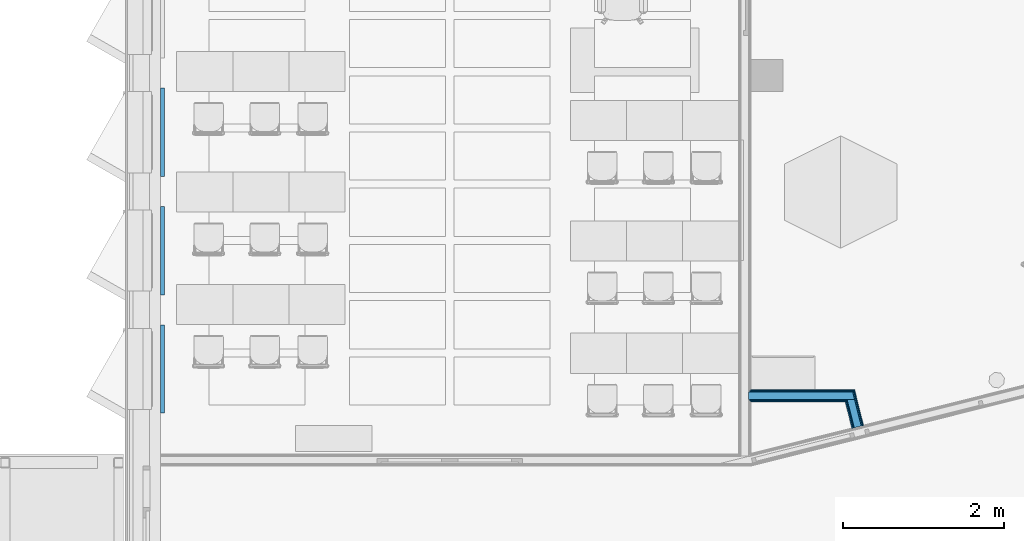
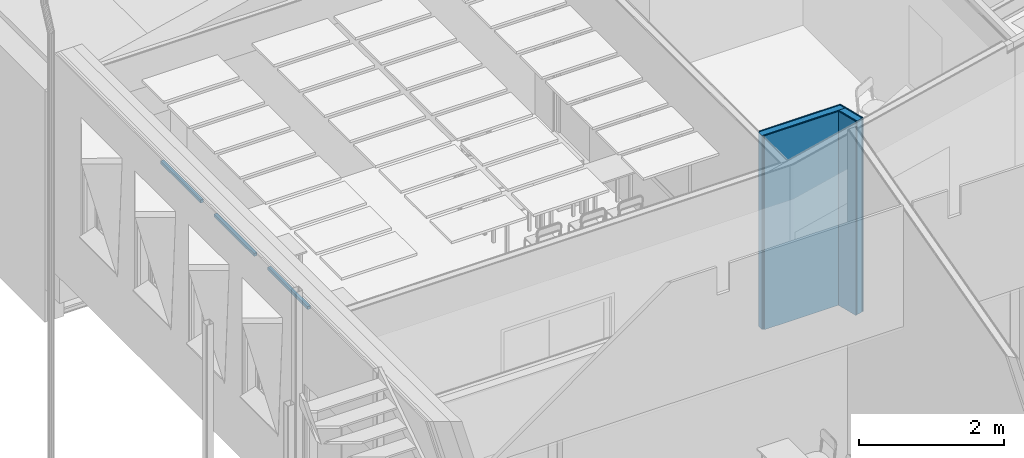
# One storey, part 52 of 153: 10 building element parts, 3 discrete accessories, 2 elements without a shape of their own.
"""IFC2X3 building model written with IfcOpenShell, lengths in millimetres."""

from ifc_helpers import new_model, entity, si_unit, converted_unit, derived_unit, money_unit, direction, frame, origin_with_axes, place, context, subcontext, project, spatial, faceted_brep, material, type_object, element, aggregate, save


model = new_model("IFC2X3")

# Units and contexts
model_context = context("Model", 3, precision=0.01, world=origin_with_axes(), true_north=direction((0.0, 1.0)))
body_context = subcontext(model_context, "Body", "Model", "MODEL_VIEW")
ifc_project = project(units=[si_unit("LENGTHUNIT", "METRE", prefix="MILLI"), si_unit("AREAUNIT", "SQUARE_METRE"), si_unit("VOLUMEUNIT", "CUBIC_METRE"), converted_unit("PLANEANGLEUNIT", "DEGREE", entity("IfcPlaneAngleMeasure", 0.0174532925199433), si_unit("PLANEANGLEUNIT", "RADIAN"), dimensions=[0, 0, 0, 0, 0, 0, 0]), money_unit("EUR"), converted_unit("TIMEUNIT", "Year", entity("IfcTimeMeasure", 31557600.0), si_unit("TIMEUNIT", "SECOND"), dimensions=[0, 0, 1, 0, 0, 0, 0]), si_unit("MASSUNIT", "GRAM", prefix="KILO"), si_unit("THERMODYNAMICTEMPERATUREUNIT", "DEGREE_CELSIUS"), si_unit("LUMINOUSINTENSITYUNIT", "LUMEN"), si_unit("ENERGYUNIT", "JOULE", prefix="MEGA"), derived_unit("THERMALCONDUCTANCEUNIT", [(si_unit("POWERUNIT", "WATT"), 1), (si_unit("LENGTHUNIT", "METRE"), -1), (si_unit("THERMODYNAMICTEMPERATUREUNIT", "KELVIN"), -1)]), derived_unit("SPECIFICHEATCAPACITYUNIT", [(si_unit("ENERGYUNIT", "JOULE"), 1), (si_unit("MASSUNIT", "GRAM", prefix="KILO"), -1), (si_unit("THERMODYNAMICTEMPERATUREUNIT", "KELVIN"), -1)]), derived_unit("MASSDENSITYUNIT", [(si_unit("MASSUNIT", "GRAM", prefix="KILO"), 1), (si_unit("VOLUMEUNIT", "CUBIC_METRE"), -1)])], contexts=[model_context])

# Site, building, storey
site_placement = place(None, frame((0.0, 0.0, 8650.0), z_axis=(0.0, 0.0, 1.0), x_axis=(1.0, 0.0, 0.0)))
site = spatial("IfcSite", under=ifc_project, at=site_placement, Name="43301:001:0844", CompositionType="ELEMENT")
building_placement = place(site_placement, origin_with_axes())
building = spatial("IfcBuilding", under=site, at=building_placement, Name="Kuressaare Ametikooli tuulikute mehaanikute õppekorpus", CompositionType="ELEMENT")
storey_placement = place(building_placement, frame((0.0, 0.0, 4100.0), z_axis=(0.0, 0.0, 1.0), x_axis=(1.0, 0.0, 0.0)))
storey = spatial("IfcBuildingStorey", under=building, at=storey_placement, Name="2.korrus", CompositionType="ELEMENT", Elevation=4100.0)

# Discrete accessories
ifc_material_1 = material(Name="GENEERILINE - KONSTRUKTRIOON")
discrete_accessory_type = type_object("IfcDiscreteAccessoryType", Name="GENEERILINE - KONSTRUKTRIOON 50")
for number, where, z_axis, x_axis, name in (
    (1, (88318.22664518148, 23619.0689239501, 3000.0), (0.0, 0.0, 1.0), (1.0, 0.0, 0.0), "RK"),
    (2, (88318.22664518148, 22144.0689239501, 3000.0), (0.0, 0.0, 1.0), (1.0, 0.0, 0.0), "RK"),
    (3, (88318.22664518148, 20669.0689239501, 3000.0), (0.0, 0.0, 1.0), (1.0, 0.0, 0.0), "RK"),
):
    element("IfcDiscreteAccessory", number, at=place(storey_placement, frame(where, z_axis=z_axis, x_axis=x_axis)), inside=storey, type_object=discrete_accessory_type, material=ifc_material_1, Name=name, context=body_context, shape_type="Brep", body=[
        faceted_brep([(0.0, 0.0, 49.99999999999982), (0.0, 0.0, 0.0), (0.0, -1099.999999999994, 0.0), (0.0, -1099.999999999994, 49.99999999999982), (49.99999999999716, 0.0, 49.99999999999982), (49.99999999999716, 0.0, 0.0), (49.99999999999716, -1099.999999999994, 0.0), (49.99999999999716, -1099.999999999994, 49.99999999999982)], [[[0, 1, 2, 3]], [[4, 5, 1, 0]], [[2, 1, 5, 6]], [[3, 2, 6, 7]], [[4, 0, 3, 7]], [[7, 6, 5, 4]]]),
    ])

# Wall, building element parts
wall_type = type_object("IfcWallType", Name="SS-2.1 147", PredefinedType="NOTDEFINED")
wall_1_placement = place(storey_placement, frame((96846.01614971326, 19713.83737729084, 0.0), z_axis=(0.0, 0.0, 1.0), x_axis=(0.2431232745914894, -0.9699953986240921, 0.0)))
wall_1 = element("IfcWall", 4, at=wall_1_placement, inside=storey, type_object=wall_type, Name="Sisesein")
ifc_material_2 = material(Name="Kipsplaat")
building_element_part_1_placement = place(wall_1_placement, origin_with_axes())
building_element_part_1 = element("IfcBuildingElementPart", 5, at=building_element_part_1_placement, material=ifc_material_2, Name="Kipsplaat", context=body_context, shape_type="Brep", body=[
    faceted_brep([(-104.5587240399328, 134.0000000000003, 3259.999999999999), (342.6080689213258, 134.0000000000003, 3259.999999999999), (342.6080689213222, 146.9999999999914, 3259.999999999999), (-101.3003554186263, 147.0000000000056, 3259.999999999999), (-104.5587240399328, 134.0000000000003, 0.0), (342.6080689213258, 134.0000000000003, 0.0), (342.6080689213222, 146.9999999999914, 0.0), (-101.3003554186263, 147.0000000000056, 0.0)], [[[0, 1, 2, 3]], [[4, 5, 1, 0]], [[2, 1, 5, 6]], [[3, 2, 6, 7]], [[4, 0, 3, 7]], [[7, 6, 5, 4]]]),
])
ifc_material_3 = material(Name="Soojustus - Mineraalvill pehme")
building_element_part_2_placement = place(wall_1_placement, origin_with_axes())
building_element_part_2 = element("IfcBuildingElementPart", 6, at=building_element_part_2_placement, material=ifc_material_3, Name="Soojustus - Mineraalvill pehme", context=body_context, shape_type="Brep", body=[
    faceted_brep([(-20.28751361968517, 25.99999999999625, 3259.999999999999), (342.6080689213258, 25.99999999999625, 3259.999999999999), (342.6080689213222, 120.9999999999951, 3259.999999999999), (3.523641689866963, 120.9999999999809, 3259.999999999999), (-20.28751361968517, 25.99999999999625, 0.0), (342.6080689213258, 25.99999999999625, 0.0), (342.6080689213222, 120.9999999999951, 0.0), (3.523641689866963, 120.9999999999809, 0.0)], [[[0, 1, 2, 3]], [[4, 5, 1, 0]], [[2, 1, 5, 6]], [[3, 2, 6, 7]], [[4, 0, 3, 7]], [[7, 6, 5, 4]]]),
])
building_element_part_3_placement = place(wall_1_placement, origin_with_axes())
building_element_part_3 = element("IfcBuildingElementPart", 7, at=building_element_part_3_placement, material=ifc_material_2, Name="Kipsplaat", context=body_context, shape_type="Brep", body=[
    faceted_brep([(0.0, 0.0, 3259.999999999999), (342.6080689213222, 0.0, 3259.999999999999), (342.6080689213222, 12.99999999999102, 3259.999999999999), (3.258368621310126, 13.00000000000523, 3259.999999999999), (0.0, 0.0, 0.0), (342.6080689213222, 0.0, 0.0), (342.6080689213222, 12.99999999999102, 0.0), (3.258368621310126, 13.00000000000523, 0.0)], [[[0, 1, 2, 3]], [[4, 5, 1, 0]], [[2, 1, 5, 6]], [[3, 2, 6, 7]], [[4, 0, 3, 7]], [[7, 6, 5, 4]]]),
])
building_element_part_4_placement = place(wall_1_placement, origin_with_axes())
building_element_part_4 = element("IfcBuildingElementPart", 8, at=building_element_part_4_placement, material=ifc_material_2, Name="Kipsplaat", context=body_context, shape_type="Brep", body=[
    faceted_brep([(-10.14375680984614, 12.99999999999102, 3259.999999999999), (342.6080689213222, 12.99999999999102, 3259.999999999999), (342.6080689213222, 25.99999999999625, 3259.999999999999), (-6.885388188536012, 25.99999999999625, 3259.999999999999), (-10.14375680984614, 12.99999999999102, 0.0), (342.6080689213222, 12.99999999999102, 0.0), (342.6080689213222, 25.99999999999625, 0.0), (-6.885388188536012, 25.99999999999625, 0.0)], [[[0, 1, 2, 3]], [[4, 5, 1, 0]], [[2, 1, 5, 6]], [[3, 2, 6, 7]], [[4, 0, 3, 7]], [[7, 6, 5, 4]]]),
])

wall_2_placement = place(storey_placement, frame((95668.06835714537, 19713.83737729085, 0.0), z_axis=(0.0, 0.0, 1.0), x_axis=(1.0, 0.0, 0.0)))
wall_2 = element("IfcWall", 9, at=wall_2_placement, inside=storey, type_object=wall_type, Name="Sisesein")
building_element_part_5_placement = place(wall_2_placement, origin_with_axes())
building_element_part_5 = element("IfcBuildingElementPart", 10, at=building_element_part_5_placement, material=ifc_material_2, Name="Kipsplaat", context=body_context, shape_type="Brep", body=[
    faceted_brep([(1295.908642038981, 134.0000000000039, 3259.999999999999), (1292.650273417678, 147.0000000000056, 3259.999999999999), (0.0, 146.9999999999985, 3259.999999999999), (0.0, 134.0000000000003, 3259.999999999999), (1295.908642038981, 134.0000000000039, 0.0), (1292.650273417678, 147.000000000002, 0.0), (0.0, 146.9999999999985, 0.0), (0.0, 134.0000000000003, 0.0)], [[[0, 1, 2, 3]], [[1, 0, 4, 5]], [[1, 5, 6, 2]], [[7, 3, 2, 6]], [[4, 0, 3, 7]], [[5, 4, 7, 6]]]),
])
building_element_part_6_placement = place(wall_2_placement, origin_with_axes())
building_element_part_6 = element("IfcBuildingElementPart", 11, at=building_element_part_6_placement, material=ifc_material_2, Name="Kipsplaat", context=body_context, shape_type="Brep", body=[
    faceted_brep([(1285.764885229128, 121.0000000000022, 3259.999999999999), (1282.50651660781, 134.0000000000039, 3259.999999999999), (-13.00000000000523, 134.0000000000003, 3259.999999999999), (-13.00000000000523, 120.9999999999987, 3259.999999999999), (1285.764885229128, 121.0000000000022, 0.0), (1282.50651660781, 134.0000000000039, 0.0), (-13.00000000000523, 134.0000000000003, 0.0), (-13.00000000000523, 120.9999999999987, 0.0)], [[[0, 1, 2, 3]], [[1, 0, 4, 5]], [[1, 5, 6, 2]], [[7, 3, 2, 6]], [[4, 0, 3, 7]], [[5, 4, 7, 6]]]),
])
building_element_part_7_placement = place(wall_2_placement, origin_with_axes())
building_element_part_7 = element("IfcBuildingElementPart", 12, at=building_element_part_7_placement, material=ifc_material_3, Name="Soojustus - Mineraalvill pehme", context=body_context, shape_type="Brep", body=[
    faceted_brep([(1296.173915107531, 26.00000000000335, 3259.999999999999), (1272.362759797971, 121.0000000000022, 3259.999999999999), (-25.99999999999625, 120.9999999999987, 3259.999999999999), (-25.99999999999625, 25.9999999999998, 3259.999999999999), (1296.173915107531, 26.00000000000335, 0.0), (1272.362759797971, 121.0000000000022, 0.0), (-25.99999999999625, 120.9999999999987, 0.0), (-25.99999999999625, 25.9999999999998, 0.0)], [[[0, 1, 2, 3]], [[1, 0, 4, 5]], [[1, 5, 6, 2]], [[7, 3, 2, 6]], [[4, 0, 3, 7]], [[5, 4, 7, 6]]]),
])
building_element_part_8_placement = place(wall_2_placement, origin_with_axes())
building_element_part_8 = element("IfcBuildingElementPart", 13, at=building_element_part_8_placement, material=ifc_material_2, Name="Kipsplaat", context=body_context, shape_type="Brep", body=[
    faceted_brep([(1201.493674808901, 13.00000000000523, 3259.999999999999), (1198.235306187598, 26.00000000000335, 3259.999999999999), (-13.00000000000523, 25.9999999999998, 3259.999999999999), (-13.00000000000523, 13.00000000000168, 3259.999999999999), (1201.493674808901, 13.00000000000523, 0.0), (1198.235306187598, 26.00000000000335, 0.0), (-13.00000000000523, 25.9999999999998, 0.0), (-13.00000000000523, 13.00000000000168, 0.0)], [[[0, 1, 2, 3]], [[1, 0, 4, 5]], [[1, 5, 6, 2]], [[7, 3, 2, 6]], [[4, 0, 3, 7]], [[5, 4, 7, 6]]]),
])
building_element_part_9_placement = place(wall_2_placement, origin_with_axes())
building_element_part_9 = element("IfcBuildingElementPart", 14, at=building_element_part_9_placement, material=ifc_material_2, Name="Kipsplaat", context=body_context, shape_type="Brep", body=[
    faceted_brep([(1191.349917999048, 0.0, 3259.999999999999), (1188.091549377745, 13.00000000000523, 3259.999999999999), (0.0, 13.00000000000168, 3259.999999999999), (0.0, 0.0, 3259.999999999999), (1191.349917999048, 0.0, 0.0), (1188.091549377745, 13.00000000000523, 0.0), (0.0, 13.00000000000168, 0.0), (0.0, 0.0, 0.0)], [[[0, 1, 2, 3]], [[1, 0, 4, 5]], [[1, 5, 6, 2]], [[7, 3, 2, 6]], [[4, 0, 3, 7]], [[5, 4, 7, 6]]]),
])
aggregate(wall_2, [building_element_part_5, building_element_part_6, building_element_part_7, building_element_part_8, building_element_part_9])

# Building element part
building_element_part_10_placement = place(wall_1_placement, origin_with_axes())
building_element_part_10 = element("IfcBuildingElementPart", 15, at=building_element_part_10_placement, material=ifc_material_2, Name="Kipsplaat", context=body_context, shape_type="Brep", body=[
    faceted_brep([(-94.41496723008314, 120.9999999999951, 3259.999999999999), (342.6080689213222, 120.9999999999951, 3259.999999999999), (342.6080689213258, 134.0000000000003, 3259.999999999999), (-91.15659860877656, 134.0000000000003, 3259.999999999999), (-94.41496723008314, 120.9999999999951, 0.0), (342.6080689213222, 120.9999999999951, 0.0), (342.6080689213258, 134.0000000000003, 0.0), (-91.15659860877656, 134.0000000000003, 0.0)], [[[0, 1, 2, 3]], [[4, 5, 1, 0]], [[2, 1, 5, 6]], [[3, 2, 6, 7]], [[4, 0, 3, 7]], [[7, 6, 5, 4]]]),
])

aggregate(wall_1, [building_element_part_1, building_element_part_2, building_element_part_3, building_element_part_4, building_element_part_10])

save(model, "model.ifc")
